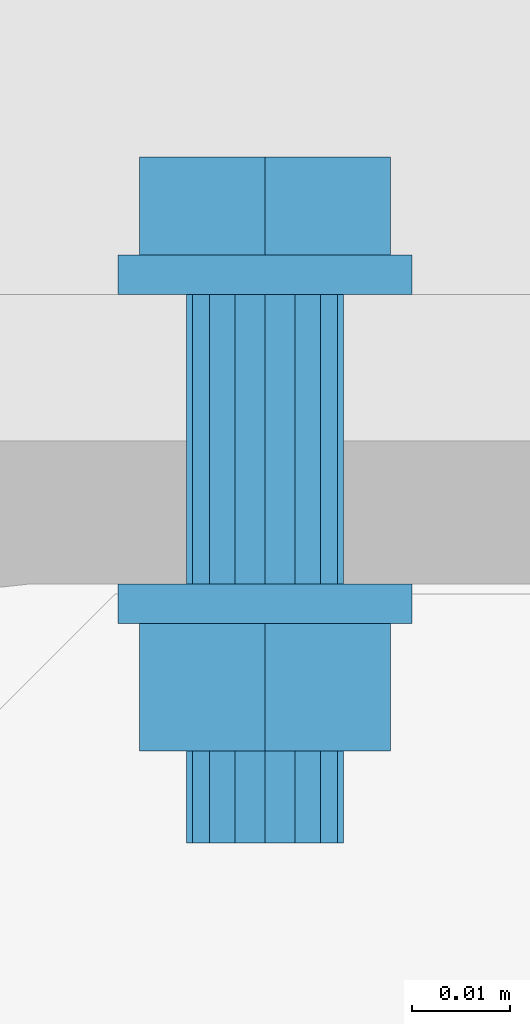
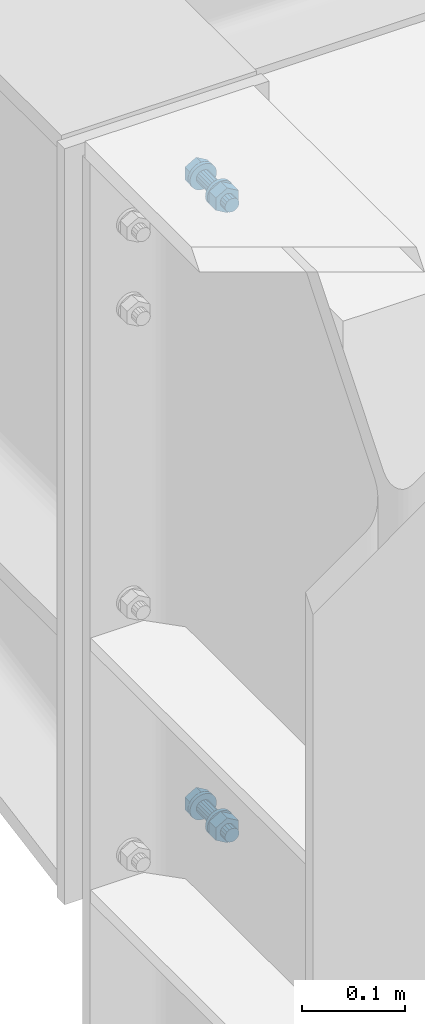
# Not in any storey, part 19 of 50: 2 mechanical fasteners.
"""IFC4 model written with IfcOpenShell, lengths in metres."""

from ifc_helpers import new_model, entity, si_unit, converted_unit, derived_unit, direction, origin, origin_with_axes, place, context, project, spatial, faceted_brep, element, save


model = new_model("IFC4")

# Units and contexts
model_context = context("Model", 3, precision=1e-05, world=origin(), true_north=direction((6.123233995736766e-17, 1.0)))
ifc_project = project(units=[si_unit("LENGTHUNIT", "METRE"), si_unit("AREAUNIT", "SQUARE_METRE"), converted_unit("PLANEANGLEUNIT", "DEGREE", entity("IfcPlaneAngleMeasure", 0.017453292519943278), si_unit("PLANEANGLEUNIT", "RADIAN"), dimensions=[0, 0, 0, 0, 0, 0, 0]), si_unit("VOLUMEUNIT", "CUBIC_METRE"), derived_unit("THERMALTRANSMITTANCEUNIT", [(si_unit("MASSUNIT", "GRAM", prefix="KILO"), 1), (si_unit("THERMODYNAMICTEMPERATUREUNIT", "KELVIN"), -1), (si_unit("TIMEUNIT", "SECOND"), -3)])], contexts=[model_context])

# Site
site_placement = place(None, origin())
site = spatial("IfcSite", under=ifc_project, at=site_placement, Name="Default", CompositionType="ELEMENT")

# Mechanical fasteners
mechanical_fastener_1_placement = place(site_placement, origin_with_axes())
element("IfcMechanicalFastener", 1, at=mechanical_fastener_1_placement, inside=site, ObjectType="Bolt#3", NominalDiameter=0.016, NominalLength=0.06, context=model_context, shape_type="Brep", body=[
    faceted_brep([(8.255144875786, 2.17376753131, 5.895), (8.255144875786, 2.1697675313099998, 5.895), (8.254856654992, 2.1697675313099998, 5.89207364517), (8.254856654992, 2.17376753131, 5.89207364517), (8.254003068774, 2.1697675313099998, 5.889259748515), (8.254003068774, 2.17376753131, 5.889259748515), (8.252616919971, 2.1697675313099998, 5.886666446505), (8.252616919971, 2.17376753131, 5.886666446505), (8.250751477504, 2.1697675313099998, 5.884393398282), (8.250751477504, 2.17376753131, 5.884393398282), (8.248478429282, 2.1697675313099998, 5.882527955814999), (8.248478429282, 2.17376753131, 5.882527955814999), (8.245885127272, 2.1697675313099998, 5.881141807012), (8.245885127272, 2.17376753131, 5.881141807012), (8.243071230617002, 2.1697675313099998, 5.880288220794), (8.243071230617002, 2.17376753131, 5.880288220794), (8.240144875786, 2.1697675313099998, 5.88), (8.240144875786, 2.17376753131, 5.88), (8.237218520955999, 2.1697675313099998, 5.880288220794), (8.237218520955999, 2.17376753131, 5.880288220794), (8.234404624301, 2.1697675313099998, 5.881141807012), (8.234404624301, 2.17376753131, 5.881141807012), (8.231811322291, 2.1697675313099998, 5.882527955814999), (8.231811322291, 2.17376753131, 5.882527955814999), (8.229538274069, 2.1697675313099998, 5.884393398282), (8.229538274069, 2.17376753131, 5.884393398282), (8.227672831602, 2.1697675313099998, 5.886666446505), (8.227672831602, 2.17376753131, 5.886666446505), (8.226286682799, 2.1697675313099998, 5.889259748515), (8.226286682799, 2.17376753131, 5.889259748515), (8.22543309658, 2.1697675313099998, 5.89207364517), (8.22543309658, 2.17376753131, 5.89207364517), (8.225144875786, 2.1697675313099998, 5.895), (8.225144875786, 2.17376753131, 5.895), (8.22543309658, 2.1697675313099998, 5.897926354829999), (8.22543309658, 2.17376753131, 5.897926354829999), (8.226286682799, 2.1697675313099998, 5.900740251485), (8.226286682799, 2.17376753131, 5.900740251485), (8.227672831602, 2.1697675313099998, 5.903333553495), (8.227672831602, 2.17376753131, 5.903333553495), (8.229538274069, 2.1697675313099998, 5.9056066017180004), (8.229538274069, 2.17376753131, 5.9056066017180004), (8.231811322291, 2.1697675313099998, 5.907472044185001), (8.231811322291, 2.17376753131, 5.907472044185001), (8.234404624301, 2.1697675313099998, 5.908858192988), (8.234404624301, 2.17376753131, 5.908858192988), (8.237218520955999, 2.1697675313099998, 5.909711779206), (8.237218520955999, 2.17376753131, 5.909711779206), (8.240144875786, 2.1697675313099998, 5.91), (8.240144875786, 2.17376753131, 5.91), (8.243071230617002, 2.1697675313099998, 5.909711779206), (8.243071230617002, 2.17376753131, 5.909711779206), (8.245885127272, 2.1697675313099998, 5.908858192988), (8.245885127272, 2.17376753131, 5.908858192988), (8.248478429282, 2.1697675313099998, 5.907472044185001), (8.248478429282, 2.17376753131, 5.907472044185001), (8.250751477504, 2.1697675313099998, 5.9056066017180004), (8.250751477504, 2.17376753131, 5.9056066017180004), (8.252616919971, 2.1697675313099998, 5.903333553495), (8.252616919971, 2.17376753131, 5.903333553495), (8.254003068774, 2.1697675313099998, 5.900740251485), (8.254003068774, 2.17376753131, 5.900740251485), (8.254856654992, 2.1697675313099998, 5.897926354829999), (8.254856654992, 2.17376753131, 5.897926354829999)], [[[0, 1, 2, 3]], [[3, 2, 4, 5]], [[5, 4, 6, 7]], [[7, 6, 8, 9]], [[9, 8, 10, 11]], [[11, 10, 12, 13]], [[13, 12, 14, 15]], [[15, 14, 16, 17]], [[17, 16, 18, 19]], [[19, 18, 20, 21]], [[21, 20, 22, 23]], [[23, 22, 24, 25]], [[25, 24, 26, 27]], [[27, 26, 28, 29]], [[29, 28, 30, 31]], [[31, 30, 32, 33]], [[33, 32, 34, 35]], [[35, 34, 36, 37]], [[37, 36, 38, 39]], [[39, 38, 40, 41]], [[41, 40, 42, 43]], [[43, 42, 44, 45]], [[45, 44, 46, 47]], [[47, 46, 48, 49]], [[49, 48, 50, 51]], [[51, 50, 52, 53]], [[53, 52, 54, 55]], [[55, 54, 56, 57]], [[57, 56, 58, 59]], [[59, 58, 60, 61]], [[61, 60, 62, 63]], [[63, 62, 1, 0]], [[0, 3, 5, 7, 9, 11, 13, 15, 17, 19, 21, 23, 25, 27, 29, 31, 33, 35, 37, 39, 41, 43, 45, 47, 49, 51, 53, 55, 57, 59, 61, 63]], [[1, 62, 60, 58, 56, 54, 52, 50, 48, 46, 44, 42, 40, 38, 36, 34, 32, 30, 28, 26, 24, 22, 20, 18, 16, 14, 12, 10, 8, 6, 4, 2]]]),
    faceted_brep([(8.227345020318, 2.17376753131, 5.88761), (8.227345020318, 2.18376753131, 5.88761), (8.240144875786, 2.18376753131, 5.8802200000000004), (8.240144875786, 2.17376753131, 5.8802200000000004), (8.252944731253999, 2.18376753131, 5.88761), (8.252944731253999, 2.17376753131, 5.88761), (8.252944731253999, 2.18376753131, 5.9023900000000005), (8.252944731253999, 2.17376753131, 5.9023900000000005), (8.240144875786, 2.18376753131, 5.90978), (8.240144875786, 2.17376753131, 5.90978), (8.227345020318, 2.18376753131, 5.9023900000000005), (8.227345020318, 2.17376753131, 5.9023900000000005)], [[[0, 1, 2, 3]], [[3, 2, 4, 5]], [[5, 4, 6, 7]], [[7, 6, 8, 9]], [[9, 8, 10, 11]], [[11, 10, 1, 0]], [[4, 2, 1, 10, 8, 6]], [[0, 3, 5, 7, 9, 11]]]),
    faceted_brep([(8.248144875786, 2.1697675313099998, 5.895), (8.248144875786, 2.14016753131, 5.895), (8.247535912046, 2.14016753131, 5.891938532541), (8.247535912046, 2.1697675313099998, 5.891938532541), (8.245801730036, 2.14016753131, 5.889343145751), (8.245801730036, 2.1697675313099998, 5.889343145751), (8.243206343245, 2.14016753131, 5.88760896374), (8.243206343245, 2.1697675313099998, 5.88760896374), (8.240144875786, 2.14016753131, 5.887), (8.240144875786, 2.1697675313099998, 5.887), (8.237083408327, 2.14016753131, 5.88760896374), (8.237083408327, 2.1697675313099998, 5.88760896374), (8.234488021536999, 2.14016753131, 5.889343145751), (8.234488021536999, 2.1697675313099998, 5.889343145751), (8.232753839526, 2.14016753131, 5.891938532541), (8.232753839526, 2.1697675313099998, 5.891938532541), (8.232144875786, 2.14016753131, 5.895), (8.232144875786, 2.1697675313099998, 5.895), (8.232753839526, 2.14016753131, 5.898061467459), (8.232753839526, 2.1697675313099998, 5.898061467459), (8.234488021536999, 2.14016753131, 5.900656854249), (8.234488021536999, 2.1697675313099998, 5.900656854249), (8.237083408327, 2.14016753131, 5.90239103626), (8.237083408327, 2.1697675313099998, 5.90239103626), (8.240144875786, 2.14016753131, 5.903), (8.240144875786, 2.1697675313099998, 5.903), (8.243206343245, 2.14016753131, 5.90239103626), (8.243206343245, 2.1697675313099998, 5.90239103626), (8.245801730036, 2.14016753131, 5.900656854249), (8.245801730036, 2.1697675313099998, 5.900656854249), (8.247535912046, 2.14016753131, 5.898061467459), (8.247535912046, 2.1697675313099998, 5.898061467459)], [[[0, 1, 2, 3]], [[3, 2, 4, 5]], [[5, 4, 6, 7]], [[7, 6, 8, 9]], [[9, 8, 10, 11]], [[11, 10, 12, 13]], [[13, 12, 14, 15]], [[15, 14, 16, 17]], [[17, 16, 18, 19]], [[19, 18, 20, 21]], [[21, 20, 22, 23]], [[23, 22, 24, 25]], [[25, 24, 26, 27]], [[27, 26, 28, 29]], [[29, 28, 30, 31]], [[31, 30, 1, 0]], [[0, 3, 5, 7, 9, 11, 13, 15, 17, 19, 21, 23, 25, 27, 29, 31]], [[1, 30, 28, 26, 24, 22, 20, 18, 16, 14, 12, 10, 8, 6, 4, 2]]]),
    faceted_brep([(8.255144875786, 2.14016753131, 5.895), (8.255144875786, 2.13616753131, 5.895), (8.254856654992, 2.13616753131, 5.89207364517), (8.254856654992, 2.14016753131, 5.89207364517), (8.254003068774, 2.13616753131, 5.889259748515), (8.254003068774, 2.14016753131, 5.889259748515), (8.252616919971, 2.13616753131, 5.886666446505), (8.252616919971, 2.14016753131, 5.886666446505), (8.250751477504, 2.13616753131, 5.884393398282), (8.250751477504, 2.14016753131, 5.884393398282), (8.248478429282, 2.13616753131, 5.882527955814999), (8.248478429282, 2.14016753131, 5.882527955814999), (8.245885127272, 2.13616753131, 5.881141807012), (8.245885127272, 2.14016753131, 5.881141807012), (8.243071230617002, 2.13616753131, 5.880288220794), (8.243071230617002, 2.14016753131, 5.880288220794), (8.240144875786, 2.13616753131, 5.88), (8.240144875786, 2.14016753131, 5.88), (8.237218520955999, 2.13616753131, 5.880288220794), (8.237218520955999, 2.14016753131, 5.880288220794), (8.234404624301, 2.13616753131, 5.881141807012), (8.234404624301, 2.14016753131, 5.881141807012), (8.231811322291, 2.13616753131, 5.882527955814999), (8.231811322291, 2.14016753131, 5.882527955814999), (8.229538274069, 2.13616753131, 5.884393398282), (8.229538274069, 2.14016753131, 5.884393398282), (8.227672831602, 2.13616753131, 5.886666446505), (8.227672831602, 2.14016753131, 5.886666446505), (8.226286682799, 2.13616753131, 5.889259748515), (8.226286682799, 2.14016753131, 5.889259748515), (8.22543309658, 2.13616753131, 5.89207364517), (8.22543309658, 2.14016753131, 5.89207364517), (8.225144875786, 2.13616753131, 5.895), (8.225144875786, 2.14016753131, 5.895), (8.22543309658, 2.13616753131, 5.897926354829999), (8.22543309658, 2.14016753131, 5.897926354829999), (8.226286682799, 2.13616753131, 5.900740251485), (8.226286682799, 2.14016753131, 5.900740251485), (8.227672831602, 2.13616753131, 5.903333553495), (8.227672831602, 2.14016753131, 5.903333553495), (8.229538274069, 2.13616753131, 5.9056066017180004), (8.229538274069, 2.14016753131, 5.9056066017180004), (8.231811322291, 2.13616753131, 5.907472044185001), (8.231811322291, 2.14016753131, 5.907472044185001), (8.234404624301, 2.13616753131, 5.908858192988), (8.234404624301, 2.14016753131, 5.908858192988), (8.237218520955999, 2.13616753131, 5.909711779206), (8.237218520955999, 2.14016753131, 5.909711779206), (8.240144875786, 2.13616753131, 5.91), (8.240144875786, 2.14016753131, 5.91), (8.243071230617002, 2.13616753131, 5.909711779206), (8.243071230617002, 2.14016753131, 5.909711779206), (8.245885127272, 2.13616753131, 5.908858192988), (8.245885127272, 2.14016753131, 5.908858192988), (8.248478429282, 2.13616753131, 5.907472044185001), (8.248478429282, 2.14016753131, 5.907472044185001), (8.250751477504, 2.13616753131, 5.9056066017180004), (8.250751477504, 2.14016753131, 5.9056066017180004), (8.252616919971, 2.13616753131, 5.903333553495), (8.252616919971, 2.14016753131, 5.903333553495), (8.254003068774, 2.13616753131, 5.900740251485), (8.254003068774, 2.14016753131, 5.900740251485), (8.254856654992, 2.13616753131, 5.897926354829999), (8.254856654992, 2.14016753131, 5.897926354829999)], [[[0, 1, 2, 3]], [[3, 2, 4, 5]], [[5, 4, 6, 7]], [[7, 6, 8, 9]], [[9, 8, 10, 11]], [[11, 10, 12, 13]], [[13, 12, 14, 15]], [[15, 14, 16, 17]], [[17, 16, 18, 19]], [[19, 18, 20, 21]], [[21, 20, 22, 23]], [[23, 22, 24, 25]], [[25, 24, 26, 27]], [[27, 26, 28, 29]], [[29, 28, 30, 31]], [[31, 30, 32, 33]], [[33, 32, 34, 35]], [[35, 34, 36, 37]], [[37, 36, 38, 39]], [[39, 38, 40, 41]], [[41, 40, 42, 43]], [[43, 42, 44, 45]], [[45, 44, 46, 47]], [[47, 46, 48, 49]], [[49, 48, 50, 51]], [[51, 50, 52, 53]], [[53, 52, 54, 55]], [[55, 54, 56, 57]], [[57, 56, 58, 59]], [[59, 58, 60, 61]], [[61, 60, 62, 63]], [[63, 62, 1, 0]], [[0, 3, 5, 7, 9, 11, 13, 15, 17, 19, 21, 23, 25, 27, 29, 31, 33, 35, 37, 39, 41, 43, 45, 47, 49, 51, 53, 55, 57, 59, 61, 63]], [[1, 62, 60, 58, 56, 54, 52, 50, 48, 46, 44, 42, 40, 38, 36, 34, 32, 30, 28, 26, 24, 22, 20, 18, 16, 14, 12, 10, 8, 6, 4, 2]]]),
    faceted_brep([(8.227345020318, 2.12316753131, 5.88761), (8.227345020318, 2.13616753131, 5.88761), (8.240144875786, 2.13616753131, 5.8802200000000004), (8.240144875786, 2.12316753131, 5.8802200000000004), (8.252944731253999, 2.13616753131, 5.88761), (8.252944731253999, 2.12316753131, 5.88761), (8.252944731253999, 2.13616753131, 5.9023900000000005), (8.252944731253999, 2.12316753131, 5.9023900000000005), (8.240144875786, 2.13616753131, 5.90978), (8.240144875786, 2.12316753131, 5.90978), (8.227345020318, 2.13616753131, 5.9023900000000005), (8.227345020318, 2.12316753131, 5.9023900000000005)], [[[0, 1, 2, 3]], [[3, 2, 4, 5]], [[5, 4, 6, 7]], [[7, 6, 8, 9]], [[9, 8, 10, 11]], [[11, 10, 1, 0]], [[4, 2, 1, 10, 8, 6]], [[0, 3, 5, 7, 9, 11]]]),
    faceted_brep([(8.248144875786, 2.12316753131, 5.895), (8.248144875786, 2.1137675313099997, 5.895), (8.247535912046, 2.1137675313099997, 5.891938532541), (8.247535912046, 2.12316753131, 5.891938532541), (8.245801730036, 2.1137675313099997, 5.889343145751), (8.245801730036, 2.12316753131, 5.889343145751), (8.243206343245, 2.1137675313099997, 5.88760896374), (8.243206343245, 2.12316753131, 5.88760896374), (8.240144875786, 2.1137675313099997, 5.887), (8.240144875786, 2.12316753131, 5.887), (8.237083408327, 2.1137675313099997, 5.88760896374), (8.237083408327, 2.12316753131, 5.88760896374), (8.234488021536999, 2.1137675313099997, 5.889343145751), (8.234488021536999, 2.12316753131, 5.889343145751), (8.232753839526, 2.1137675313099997, 5.891938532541), (8.232753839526, 2.12316753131, 5.891938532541), (8.232144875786, 2.1137675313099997, 5.895), (8.232144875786, 2.12316753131, 5.895), (8.232753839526, 2.1137675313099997, 5.898061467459), (8.232753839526, 2.12316753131, 5.898061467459), (8.234488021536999, 2.1137675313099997, 5.900656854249), (8.234488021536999, 2.12316753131, 5.900656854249), (8.237083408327, 2.1137675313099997, 5.90239103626), (8.237083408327, 2.12316753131, 5.90239103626), (8.240144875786, 2.1137675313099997, 5.903), (8.240144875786, 2.12316753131, 5.903), (8.243206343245, 2.1137675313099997, 5.90239103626), (8.243206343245, 2.12316753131, 5.90239103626), (8.245801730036, 2.1137675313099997, 5.900656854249), (8.245801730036, 2.12316753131, 5.900656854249), (8.247535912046, 2.1137675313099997, 5.898061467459), (8.247535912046, 2.12316753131, 5.898061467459)], [[[0, 1, 2, 3]], [[3, 2, 4, 5]], [[5, 4, 6, 7]], [[7, 6, 8, 9]], [[9, 8, 10, 11]], [[11, 10, 12, 13]], [[13, 12, 14, 15]], [[15, 14, 16, 17]], [[17, 16, 18, 19]], [[19, 18, 20, 21]], [[21, 20, 22, 23]], [[23, 22, 24, 25]], [[25, 24, 26, 27]], [[27, 26, 28, 29]], [[29, 28, 30, 31]], [[31, 30, 1, 0]], [[0, 3, 5, 7, 9, 11, 13, 15, 17, 19, 21, 23, 25, 27, 29, 31]], [[1, 30, 28, 26, 24, 22, 20, 18, 16, 14, 12, 10, 8, 6, 4, 2]]]),
])
mechanical_fastener_2_placement = place(site_placement, origin_with_axes())
element("IfcMechanicalFastener", 2, at=mechanical_fastener_2_placement, inside=site, ObjectType="Bolt#4", NominalDiameter=0.016, NominalLength=0.06, context=model_context, shape_type="Brep", body=[
    faceted_brep([(8.255144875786, 2.17376753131, 5.145), (8.255144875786, 2.1697675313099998, 5.145), (8.254856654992, 2.1697675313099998, 5.14207364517), (8.254856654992, 2.17376753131, 5.14207364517), (8.254003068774, 2.1697675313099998, 5.139259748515), (8.254003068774, 2.17376753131, 5.139259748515), (8.252616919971, 2.1697675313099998, 5.136666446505), (8.252616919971, 2.17376753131, 5.136666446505), (8.250751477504, 2.1697675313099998, 5.134393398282), (8.250751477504, 2.17376753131, 5.134393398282), (8.248478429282, 2.1697675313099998, 5.132527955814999), (8.248478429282, 2.17376753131, 5.132527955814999), (8.245885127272, 2.1697675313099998, 5.131141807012), (8.245885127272, 2.17376753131, 5.131141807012), (8.243071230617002, 2.1697675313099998, 5.130288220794), (8.243071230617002, 2.17376753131, 5.130288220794), (8.240144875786, 2.1697675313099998, 5.13), (8.240144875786, 2.17376753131, 5.13), (8.237218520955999, 2.1697675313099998, 5.130288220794), (8.237218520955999, 2.17376753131, 5.130288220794), (8.234404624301, 2.1697675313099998, 5.131141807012), (8.234404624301, 2.17376753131, 5.131141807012), (8.231811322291, 2.1697675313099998, 5.132527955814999), (8.231811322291, 2.17376753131, 5.132527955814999), (8.229538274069, 2.1697675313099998, 5.134393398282), (8.229538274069, 2.17376753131, 5.134393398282), (8.227672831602, 2.1697675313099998, 5.136666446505), (8.227672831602, 2.17376753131, 5.136666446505), (8.226286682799, 2.1697675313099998, 5.139259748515), (8.226286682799, 2.17376753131, 5.139259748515), (8.22543309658, 2.1697675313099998, 5.14207364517), (8.22543309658, 2.17376753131, 5.14207364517), (8.225144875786, 2.1697675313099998, 5.145), (8.225144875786, 2.17376753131, 5.145), (8.22543309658, 2.1697675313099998, 5.147926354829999), (8.22543309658, 2.17376753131, 5.147926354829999), (8.226286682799, 2.1697675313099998, 5.150740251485), (8.226286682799, 2.17376753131, 5.150740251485), (8.227672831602, 2.1697675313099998, 5.153333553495), (8.227672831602, 2.17376753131, 5.153333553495), (8.229538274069, 2.1697675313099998, 5.1556066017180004), (8.229538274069, 2.17376753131, 5.1556066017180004), (8.231811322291, 2.1697675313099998, 5.157472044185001), (8.231811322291, 2.17376753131, 5.157472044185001), (8.234404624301, 2.1697675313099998, 5.158858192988), (8.234404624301, 2.17376753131, 5.158858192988), (8.237218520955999, 2.1697675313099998, 5.159711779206), (8.237218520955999, 2.17376753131, 5.159711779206), (8.240144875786, 2.1697675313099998, 5.16), (8.240144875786, 2.17376753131, 5.16), (8.243071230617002, 2.1697675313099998, 5.159711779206), (8.243071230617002, 2.17376753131, 5.159711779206), (8.245885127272, 2.1697675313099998, 5.158858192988), (8.245885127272, 2.17376753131, 5.158858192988), (8.248478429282, 2.1697675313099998, 5.157472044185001), (8.248478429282, 2.17376753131, 5.157472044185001), (8.250751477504, 2.1697675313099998, 5.1556066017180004), (8.250751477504, 2.17376753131, 5.1556066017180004), (8.252616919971, 2.1697675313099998, 5.153333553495), (8.252616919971, 2.17376753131, 5.153333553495), (8.254003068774, 2.1697675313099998, 5.150740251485), (8.254003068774, 2.17376753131, 5.150740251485), (8.254856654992, 2.1697675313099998, 5.147926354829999), (8.254856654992, 2.17376753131, 5.147926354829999)], [[[0, 1, 2, 3]], [[3, 2, 4, 5]], [[5, 4, 6, 7]], [[7, 6, 8, 9]], [[9, 8, 10, 11]], [[11, 10, 12, 13]], [[13, 12, 14, 15]], [[15, 14, 16, 17]], [[17, 16, 18, 19]], [[19, 18, 20, 21]], [[21, 20, 22, 23]], [[23, 22, 24, 25]], [[25, 24, 26, 27]], [[27, 26, 28, 29]], [[29, 28, 30, 31]], [[31, 30, 32, 33]], [[33, 32, 34, 35]], [[35, 34, 36, 37]], [[37, 36, 38, 39]], [[39, 38, 40, 41]], [[41, 40, 42, 43]], [[43, 42, 44, 45]], [[45, 44, 46, 47]], [[47, 46, 48, 49]], [[49, 48, 50, 51]], [[51, 50, 52, 53]], [[53, 52, 54, 55]], [[55, 54, 56, 57]], [[57, 56, 58, 59]], [[59, 58, 60, 61]], [[61, 60, 62, 63]], [[63, 62, 1, 0]], [[0, 3, 5, 7, 9, 11, 13, 15, 17, 19, 21, 23, 25, 27, 29, 31, 33, 35, 37, 39, 41, 43, 45, 47, 49, 51, 53, 55, 57, 59, 61, 63]], [[1, 62, 60, 58, 56, 54, 52, 50, 48, 46, 44, 42, 40, 38, 36, 34, 32, 30, 28, 26, 24, 22, 20, 18, 16, 14, 12, 10, 8, 6, 4, 2]]]),
    faceted_brep([(8.227345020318, 2.17376753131, 5.13761), (8.227345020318, 2.18376753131, 5.13761), (8.240144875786, 2.18376753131, 5.1302200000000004), (8.240144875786, 2.17376753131, 5.1302200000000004), (8.252944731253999, 2.18376753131, 5.13761), (8.252944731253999, 2.17376753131, 5.13761), (8.252944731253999, 2.18376753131, 5.1523900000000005), (8.252944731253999, 2.17376753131, 5.1523900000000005), (8.240144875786, 2.18376753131, 5.15978), (8.240144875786, 2.17376753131, 5.15978), (8.227345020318, 2.18376753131, 5.1523900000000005), (8.227345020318, 2.17376753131, 5.1523900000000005)], [[[0, 1, 2, 3]], [[3, 2, 4, 5]], [[5, 4, 6, 7]], [[7, 6, 8, 9]], [[9, 8, 10, 11]], [[11, 10, 1, 0]], [[4, 2, 1, 10, 8, 6]], [[0, 3, 5, 7, 9, 11]]]),
    faceted_brep([(8.248144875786, 2.1697675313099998, 5.145), (8.248144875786, 2.14016753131, 5.145), (8.247535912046, 2.14016753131, 5.141938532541), (8.247535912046, 2.1697675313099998, 5.141938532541), (8.245801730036, 2.14016753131, 5.139343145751), (8.245801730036, 2.1697675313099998, 5.139343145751), (8.243206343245, 2.14016753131, 5.13760896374), (8.243206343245, 2.1697675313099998, 5.13760896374), (8.240144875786, 2.14016753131, 5.137), (8.240144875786, 2.1697675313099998, 5.137), (8.237083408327, 2.14016753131, 5.13760896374), (8.237083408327, 2.1697675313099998, 5.13760896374), (8.234488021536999, 2.14016753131, 5.139343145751), (8.234488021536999, 2.1697675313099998, 5.139343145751), (8.232753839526, 2.14016753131, 5.141938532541), (8.232753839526, 2.1697675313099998, 5.141938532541), (8.232144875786, 2.14016753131, 5.145), (8.232144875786, 2.1697675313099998, 5.145), (8.232753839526, 2.14016753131, 5.148061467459), (8.232753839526, 2.1697675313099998, 5.148061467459), (8.234488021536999, 2.14016753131, 5.150656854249), (8.234488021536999, 2.1697675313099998, 5.150656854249), (8.237083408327, 2.14016753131, 5.15239103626), (8.237083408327, 2.1697675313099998, 5.15239103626), (8.240144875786, 2.14016753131, 5.153), (8.240144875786, 2.1697675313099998, 5.153), (8.243206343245, 2.14016753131, 5.15239103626), (8.243206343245, 2.1697675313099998, 5.15239103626), (8.245801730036, 2.14016753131, 5.150656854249), (8.245801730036, 2.1697675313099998, 5.150656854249), (8.247535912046, 2.14016753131, 5.148061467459), (8.247535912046, 2.1697675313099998, 5.148061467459)], [[[0, 1, 2, 3]], [[3, 2, 4, 5]], [[5, 4, 6, 7]], [[7, 6, 8, 9]], [[9, 8, 10, 11]], [[11, 10, 12, 13]], [[13, 12, 14, 15]], [[15, 14, 16, 17]], [[17, 16, 18, 19]], [[19, 18, 20, 21]], [[21, 20, 22, 23]], [[23, 22, 24, 25]], [[25, 24, 26, 27]], [[27, 26, 28, 29]], [[29, 28, 30, 31]], [[31, 30, 1, 0]], [[0, 3, 5, 7, 9, 11, 13, 15, 17, 19, 21, 23, 25, 27, 29, 31]], [[1, 30, 28, 26, 24, 22, 20, 18, 16, 14, 12, 10, 8, 6, 4, 2]]]),
    faceted_brep([(8.255144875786, 2.14016753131, 5.145), (8.255144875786, 2.13616753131, 5.145), (8.254856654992, 2.13616753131, 5.14207364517), (8.254856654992, 2.14016753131, 5.14207364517), (8.254003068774, 2.13616753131, 5.139259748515), (8.254003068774, 2.14016753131, 5.139259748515), (8.252616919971, 2.13616753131, 5.136666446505), (8.252616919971, 2.14016753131, 5.136666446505), (8.250751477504, 2.13616753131, 5.134393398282), (8.250751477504, 2.14016753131, 5.134393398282), (8.248478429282, 2.13616753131, 5.132527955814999), (8.248478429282, 2.14016753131, 5.132527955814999), (8.245885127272, 2.13616753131, 5.131141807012), (8.245885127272, 2.14016753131, 5.131141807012), (8.243071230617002, 2.13616753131, 5.130288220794), (8.243071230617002, 2.14016753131, 5.130288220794), (8.240144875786, 2.13616753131, 5.13), (8.240144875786, 2.14016753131, 5.13), (8.237218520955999, 2.13616753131, 5.130288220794), (8.237218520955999, 2.14016753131, 5.130288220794), (8.234404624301, 2.13616753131, 5.131141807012), (8.234404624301, 2.14016753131, 5.131141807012), (8.231811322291, 2.13616753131, 5.132527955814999), (8.231811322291, 2.14016753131, 5.132527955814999), (8.229538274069, 2.13616753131, 5.134393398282), (8.229538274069, 2.14016753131, 5.134393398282), (8.227672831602, 2.13616753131, 5.136666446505), (8.227672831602, 2.14016753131, 5.136666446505), (8.226286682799, 2.13616753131, 5.139259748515), (8.226286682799, 2.14016753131, 5.139259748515), (8.22543309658, 2.13616753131, 5.14207364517), (8.22543309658, 2.14016753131, 5.14207364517), (8.225144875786, 2.13616753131, 5.145), (8.225144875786, 2.14016753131, 5.145), (8.22543309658, 2.13616753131, 5.147926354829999), (8.22543309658, 2.14016753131, 5.147926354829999), (8.226286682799, 2.13616753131, 5.150740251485), (8.226286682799, 2.14016753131, 5.150740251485), (8.227672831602, 2.13616753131, 5.153333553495), (8.227672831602, 2.14016753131, 5.153333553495), (8.229538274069, 2.13616753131, 5.1556066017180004), (8.229538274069, 2.14016753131, 5.1556066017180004), (8.231811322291, 2.13616753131, 5.157472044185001), (8.231811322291, 2.14016753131, 5.157472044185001), (8.234404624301, 2.13616753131, 5.158858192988), (8.234404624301, 2.14016753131, 5.158858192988), (8.237218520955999, 2.13616753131, 5.159711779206), (8.237218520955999, 2.14016753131, 5.159711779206), (8.240144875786, 2.13616753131, 5.16), (8.240144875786, 2.14016753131, 5.16), (8.243071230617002, 2.13616753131, 5.159711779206), (8.243071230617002, 2.14016753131, 5.159711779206), (8.245885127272, 2.13616753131, 5.158858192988), (8.245885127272, 2.14016753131, 5.158858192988), (8.248478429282, 2.13616753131, 5.157472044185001), (8.248478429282, 2.14016753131, 5.157472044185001), (8.250751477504, 2.13616753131, 5.1556066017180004), (8.250751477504, 2.14016753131, 5.1556066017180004), (8.252616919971, 2.13616753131, 5.153333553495), (8.252616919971, 2.14016753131, 5.153333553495), (8.254003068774, 2.13616753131, 5.150740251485), (8.254003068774, 2.14016753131, 5.150740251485), (8.254856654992, 2.13616753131, 5.147926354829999), (8.254856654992, 2.14016753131, 5.147926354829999)], [[[0, 1, 2, 3]], [[3, 2, 4, 5]], [[5, 4, 6, 7]], [[7, 6, 8, 9]], [[9, 8, 10, 11]], [[11, 10, 12, 13]], [[13, 12, 14, 15]], [[15, 14, 16, 17]], [[17, 16, 18, 19]], [[19, 18, 20, 21]], [[21, 20, 22, 23]], [[23, 22, 24, 25]], [[25, 24, 26, 27]], [[27, 26, 28, 29]], [[29, 28, 30, 31]], [[31, 30, 32, 33]], [[33, 32, 34, 35]], [[35, 34, 36, 37]], [[37, 36, 38, 39]], [[39, 38, 40, 41]], [[41, 40, 42, 43]], [[43, 42, 44, 45]], [[45, 44, 46, 47]], [[47, 46, 48, 49]], [[49, 48, 50, 51]], [[51, 50, 52, 53]], [[53, 52, 54, 55]], [[55, 54, 56, 57]], [[57, 56, 58, 59]], [[59, 58, 60, 61]], [[61, 60, 62, 63]], [[63, 62, 1, 0]], [[0, 3, 5, 7, 9, 11, 13, 15, 17, 19, 21, 23, 25, 27, 29, 31, 33, 35, 37, 39, 41, 43, 45, 47, 49, 51, 53, 55, 57, 59, 61, 63]], [[1, 62, 60, 58, 56, 54, 52, 50, 48, 46, 44, 42, 40, 38, 36, 34, 32, 30, 28, 26, 24, 22, 20, 18, 16, 14, 12, 10, 8, 6, 4, 2]]]),
    faceted_brep([(8.227345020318, 2.12316753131, 5.13761), (8.227345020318, 2.13616753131, 5.13761), (8.240144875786, 2.13616753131, 5.1302200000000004), (8.240144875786, 2.12316753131, 5.1302200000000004), (8.252944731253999, 2.13616753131, 5.13761), (8.252944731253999, 2.12316753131, 5.13761), (8.252944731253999, 2.13616753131, 5.1523900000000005), (8.252944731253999, 2.12316753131, 5.1523900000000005), (8.240144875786, 2.13616753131, 5.15978), (8.240144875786, 2.12316753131, 5.15978), (8.227345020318, 2.13616753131, 5.1523900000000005), (8.227345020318, 2.12316753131, 5.1523900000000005)], [[[0, 1, 2, 3]], [[3, 2, 4, 5]], [[5, 4, 6, 7]], [[7, 6, 8, 9]], [[9, 8, 10, 11]], [[11, 10, 1, 0]], [[4, 2, 1, 10, 8, 6]], [[0, 3, 5, 7, 9, 11]]]),
    faceted_brep([(8.248144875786, 2.12316753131, 5.145), (8.248144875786, 2.1137675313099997, 5.145), (8.247535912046, 2.1137675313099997, 5.141938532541), (8.247535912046, 2.12316753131, 5.141938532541), (8.245801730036, 2.1137675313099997, 5.139343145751), (8.245801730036, 2.12316753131, 5.139343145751), (8.243206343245, 2.1137675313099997, 5.13760896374), (8.243206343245, 2.12316753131, 5.13760896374), (8.240144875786, 2.1137675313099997, 5.137), (8.240144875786, 2.12316753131, 5.137), (8.237083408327, 2.1137675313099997, 5.13760896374), (8.237083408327, 2.12316753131, 5.13760896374), (8.234488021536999, 2.1137675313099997, 5.139343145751), (8.234488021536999, 2.12316753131, 5.139343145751), (8.232753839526, 2.1137675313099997, 5.141938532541), (8.232753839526, 2.12316753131, 5.141938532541), (8.232144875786, 2.1137675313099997, 5.145), (8.232144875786, 2.12316753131, 5.145), (8.232753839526, 2.1137675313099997, 5.148061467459), (8.232753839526, 2.12316753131, 5.148061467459), (8.234488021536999, 2.1137675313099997, 5.150656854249), (8.234488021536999, 2.12316753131, 5.150656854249), (8.237083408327, 2.1137675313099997, 5.15239103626), (8.237083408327, 2.12316753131, 5.15239103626), (8.240144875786, 2.1137675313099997, 5.153), (8.240144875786, 2.12316753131, 5.153), (8.243206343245, 2.1137675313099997, 5.15239103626), (8.243206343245, 2.12316753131, 5.15239103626), (8.245801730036, 2.1137675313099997, 5.150656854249), (8.245801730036, 2.12316753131, 5.150656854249), (8.247535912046, 2.1137675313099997, 5.148061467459), (8.247535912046, 2.12316753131, 5.148061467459)], [[[0, 1, 2, 3]], [[3, 2, 4, 5]], [[5, 4, 6, 7]], [[7, 6, 8, 9]], [[9, 8, 10, 11]], [[11, 10, 12, 13]], [[13, 12, 14, 15]], [[15, 14, 16, 17]], [[17, 16, 18, 19]], [[19, 18, 20, 21]], [[21, 20, 22, 23]], [[23, 22, 24, 25]], [[25, 24, 26, 27]], [[27, 26, 28, 29]], [[29, 28, 30, 31]], [[31, 30, 1, 0]], [[0, 3, 5, 7, 9, 11, 13, 15, 17, 19, 21, 23, 25, 27, 29, 31]], [[1, 30, 28, 26, 24, 22, 20, 18, 16, 14, 12, 10, 8, 6, 4, 2]]]),
])

save(model, "model.ifc")
